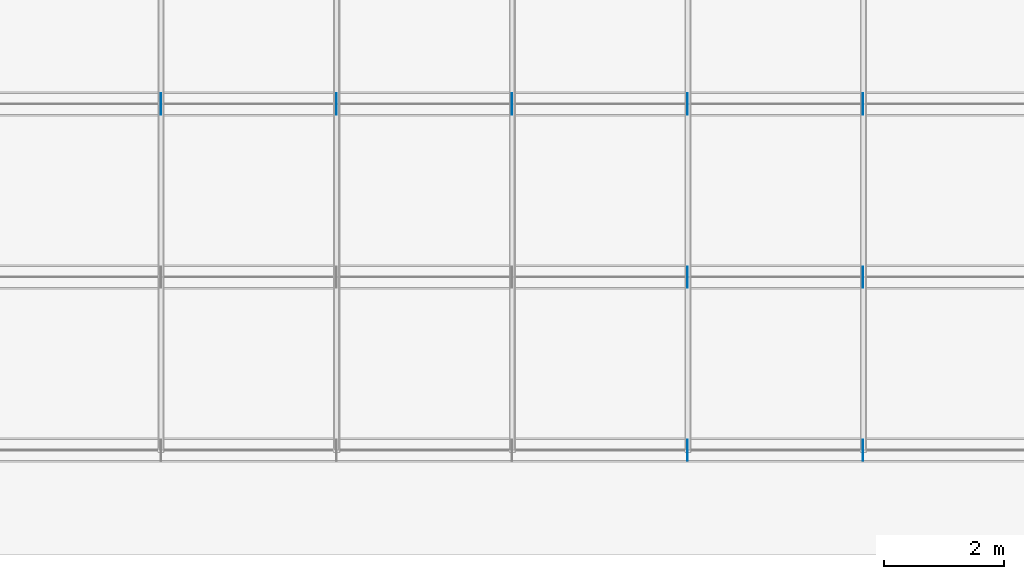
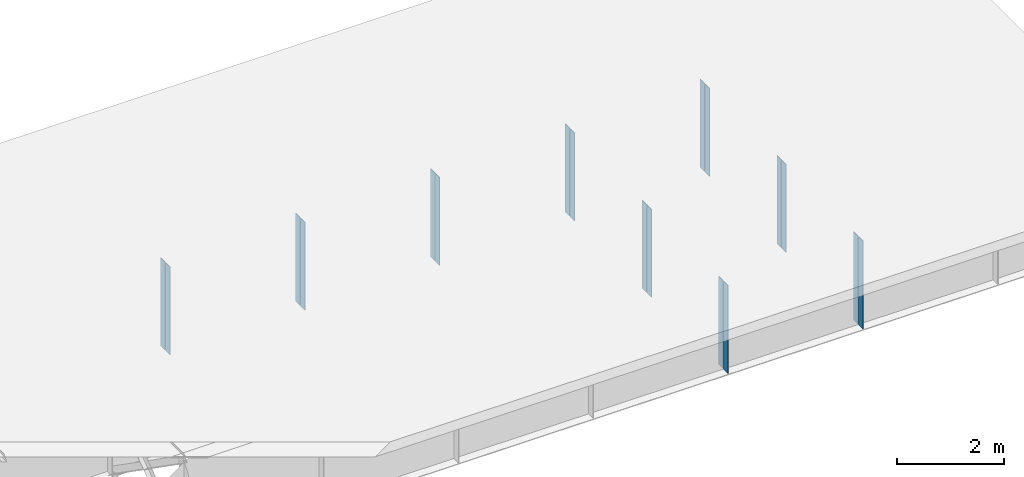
# One storey, part 10 of 13: 18 plates.
"""IFC4 building model written with IfcOpenShell, lengths in metres."""

from ifc_helpers import new_model, si_unit, frame, origin, origin_with_axes, origin_2d_with_axis, place, context, subcontext, project, spatial, rectangle, extrude, element, save


model = new_model("IFC4")

# Units and contexts
model_context = context("Model", 3, precision=1e-05, world=origin())
body_context = subcontext(model_context, "Body", "Model", "MODEL_VIEW")
ifc_project = project(units=[si_unit("LENGTHUNIT", "METRE"), si_unit("AREAUNIT", "SQUARE_METRE"), si_unit("VOLUMEUNIT", "CUBIC_METRE"), si_unit("PLANEANGLEUNIT", "RADIAN")], contexts=[model_context])

# Site, building, storey
site_placement = place(None, origin_with_axes())
site = spatial("IfcSite", under=ifc_project, at=site_placement, Name="Default Site")
building_placement = place(site_placement, origin_with_axes())
building = spatial("IfcBuilding", under=site, at=building_placement, Name="Bridge Structure")
storey_placement = place(building_placement, origin_with_axes())
storey = spatial("IfcBuildingStorey", under=building, at=storey_placement, Name="Superstructure")

# Plates
for number, where, z_axis, x_axis, name in (
    (1, (26.244, -4.2215, -1.006), (0.0, 0.0, 1.0), (1.0, 0.0, 0.0), "Intermediate Stiffener 1"),
    (2, (26.244, -4.4035, -1.006), (0.0, 0.0, 1.0), (1.0, 0.0, 0.0), "Intermediate Stiffener 1"),
    (3, (29.16, -4.2215, -1.006), (0.0, 0.0, 1.0), (1.0, 0.0, 0.0), "Intermediate Stiffener 1"),
    (4, (29.16, -4.4035, -1.006), (0.0, 0.0, 1.0), (1.0, 0.0, 0.0), "Intermediate Stiffener 1"),
    (5, (26.244, -1.3465, -1.006), (0.0, 0.0, 1.0), (1.0, 0.0, 0.0), "Intermediate Stiffener 2"),
    (6, (26.244, -1.5285, -1.006), (0.0, 0.0, 1.0), (1.0, 0.0, 0.0), "Intermediate Stiffener 2"),
    (7, (29.16, -1.3465, -1.006), (0.0, 0.0, 1.0), (1.0, 0.0, 0.0), "Intermediate Stiffener 2"),
    (8, (29.16, -1.5285, -1.006), (0.0, 0.0, 1.0), (1.0, 0.0, 0.0), "Intermediate Stiffener 2"),
    (9, (17.496, 1.5285, -1.006), (0.0, 0.0, 1.0), (1.0, 0.0, 0.0), "Intermediate Stiffener 3"),
    (10, (17.496, 1.3465, -1.006), (0.0, 0.0, 1.0), (1.0, 0.0, 0.0), "Intermediate Stiffener 3"),
    (11, (20.412, 1.5285, -1.006), (0.0, 0.0, 1.0), (1.0, 0.0, 0.0), "Intermediate Stiffener 3"),
    (12, (20.412, 1.3465, -1.006), (0.0, 0.0, 1.0), (1.0, 0.0, 0.0), "Intermediate Stiffener 3"),
    (13, (23.328, 1.5285, -1.006), (0.0, 0.0, 1.0), (1.0, 0.0, 0.0), "Intermediate Stiffener 3"),
    (14, (23.328, 1.3465, -1.006), (0.0, 0.0, 1.0), (1.0, 0.0, 0.0), "Intermediate Stiffener 3"),
    (15, (26.244, 1.5285, -1.006), (0.0, 0.0, 1.0), (1.0, 0.0, 0.0), "Intermediate Stiffener 3"),
    (16, (26.244, 1.3465, -1.006), (0.0, 0.0, 1.0), (1.0, 0.0, 0.0), "Intermediate Stiffener 3"),
    (17, (29.16, 1.5285, -1.006), (0.0, 0.0, 1.0), (1.0, 0.0, 0.0), "Intermediate Stiffener 3"),
    (18, (29.16, 1.3465, -1.006), (0.0, 0.0, 1.0), (1.0, 0.0, 0.0), "Intermediate Stiffener 3"),
):
    element("IfcPlate", number, at=place(storey_placement, frame(where, z_axis=z_axis, x_axis=x_axis)), inside=storey, Name=name, context=body_context, shape_type="SweptSolid", body=[
        extrude(rectangle(XDim=0.012, YDim=0.168, at=origin_2d_with_axis()), origin_with_axes(), (0.0, 0.0, 1.0), 2.012),
    ])

save(model, "model.ifc")
